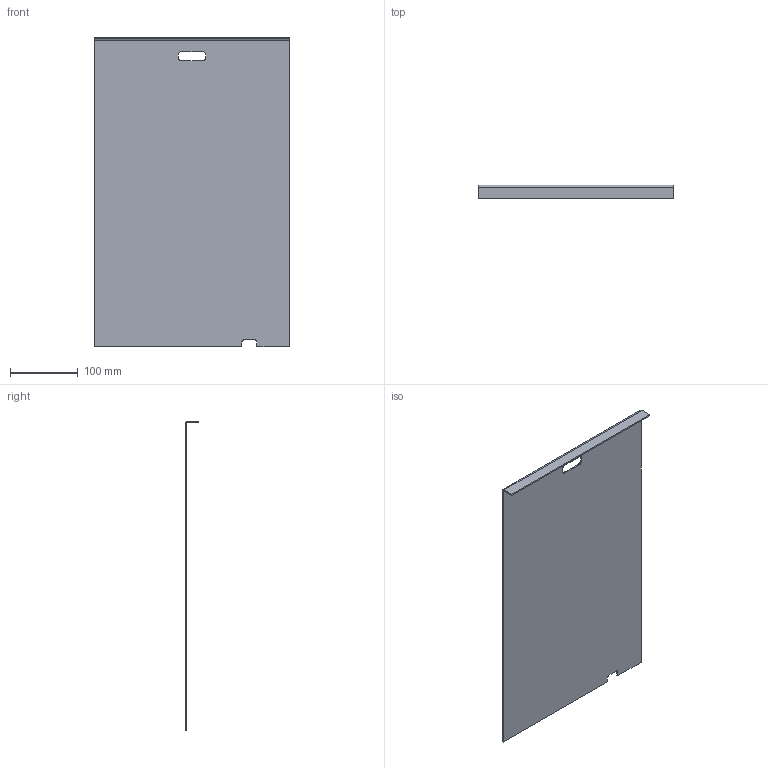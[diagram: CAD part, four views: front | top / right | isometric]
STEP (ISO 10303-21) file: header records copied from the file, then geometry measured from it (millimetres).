
FILE_DESCRIPTION(('Open CASCADE Model'),'2;1');
FILE_NAME('Open CASCADE Shape Model','2026-09-23T02:05:59',('Author'),( 'Open CASCADE'),'Open CASCADE STEP processor 7.7','Open CASCADE 7.7' ,'Unknown');
FILE_SCHEMA(('AUTOMOTIVE_DESIGN { 1 0 10303 214 1 1 1 1 }'));
Length unit declared in the file: millimetre
Products named in the file (1): Open CASCADE STEP translator 7.7 5
Bounding box: 289 x 20.5 x 458 mm (x, y, z)
Volume: 273163.4 mm3; surface area: 276453.9 mm2
Topology: 1 solids, 1 shells, 24 faces, 66 edges, 44 vertices
Faces by surface type: plane 16, cylinder 8
Entity records: 1634 total; most frequent: CARTESIAN_POINT 343, DIRECTION 228, LINE 138, VECTOR 138, ORIENTED_EDGE 132, PCURVE 132, DEFINITIONAL_REPRESENTATION 132, EDGE_CURVE 66
